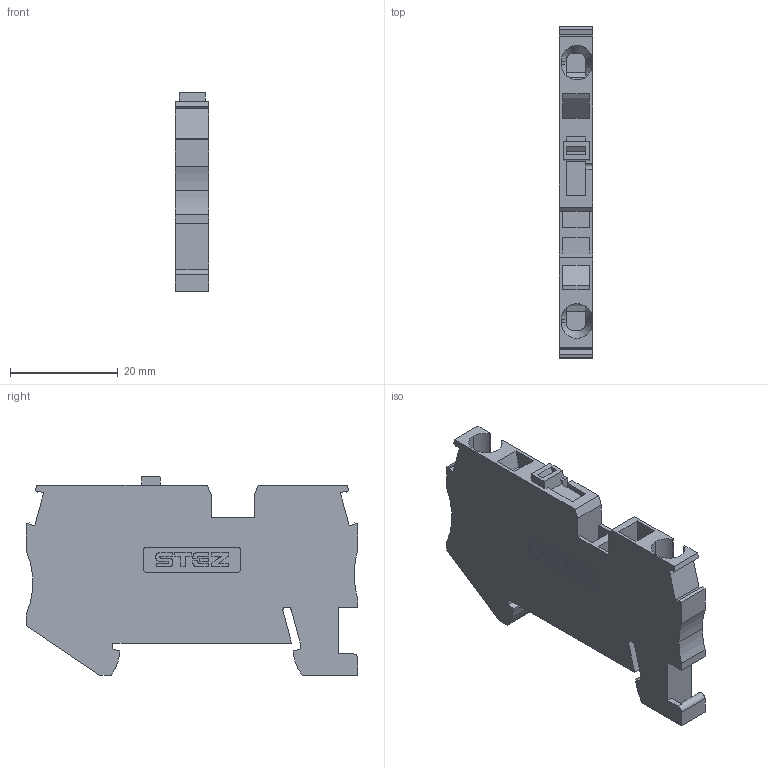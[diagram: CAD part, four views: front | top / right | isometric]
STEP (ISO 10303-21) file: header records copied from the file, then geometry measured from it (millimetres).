
FILE_DESCRIPTION(('TFLEX Exchange Step'),'2;1');
FILE_NAME('10200031_КНЗ_4-2-РЗМ.stp', '2024-06-06T15:32:14+03:00',('apanin'),('Unknown organisation'),'TFLEX Exchange 2023.2','T-FLEX CAD','Unknown authorisation');
FILE_SCHEMA( ('AUTOMOTIVE_DESIGN { 1 0 10303 214 1 1 1 1 }') );
Length unit declared in the file: millimetre
Products named in the file (1): Тело_1 - ST-4-MT-SELECT:1
Bounding box: 6.15 x 61.5 x 36.85 mm (x, y, z)
Volume: 9607.9 mm3; surface area: 6116.8 mm2
Topology: 1 solids, 1 shells, 376 faces, 1080 edges, 716 vertices
Faces by surface type: cylinder 192, plane 178, cone 6
Entity records: 12751 total; most frequent: CARTESIAN_POINT 2532, DIRECTION 2177, ORIENTED_EDGE 2160, EDGE_CURVE 1080, AXIS2_PLACEMENT_3D 754, VERTEX_POINT 716, VECTOR 669, LINE 669
